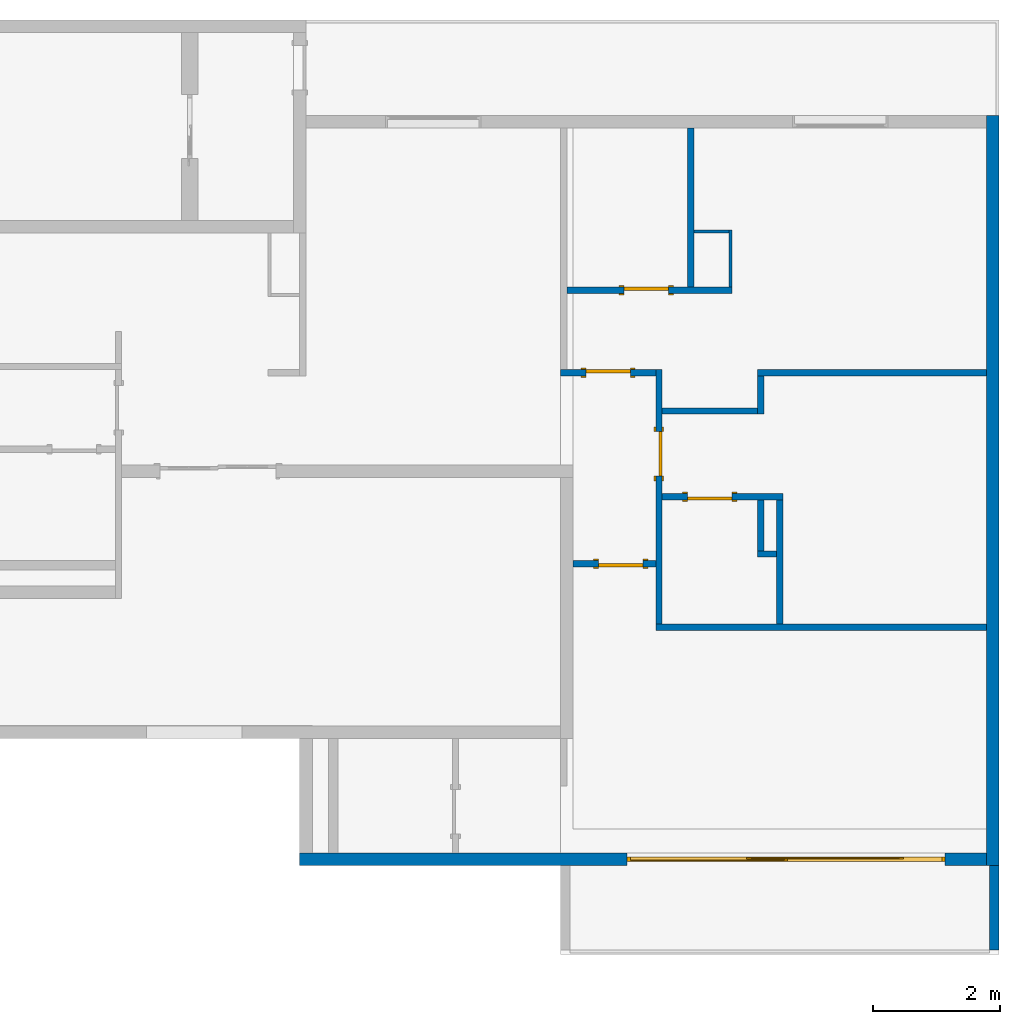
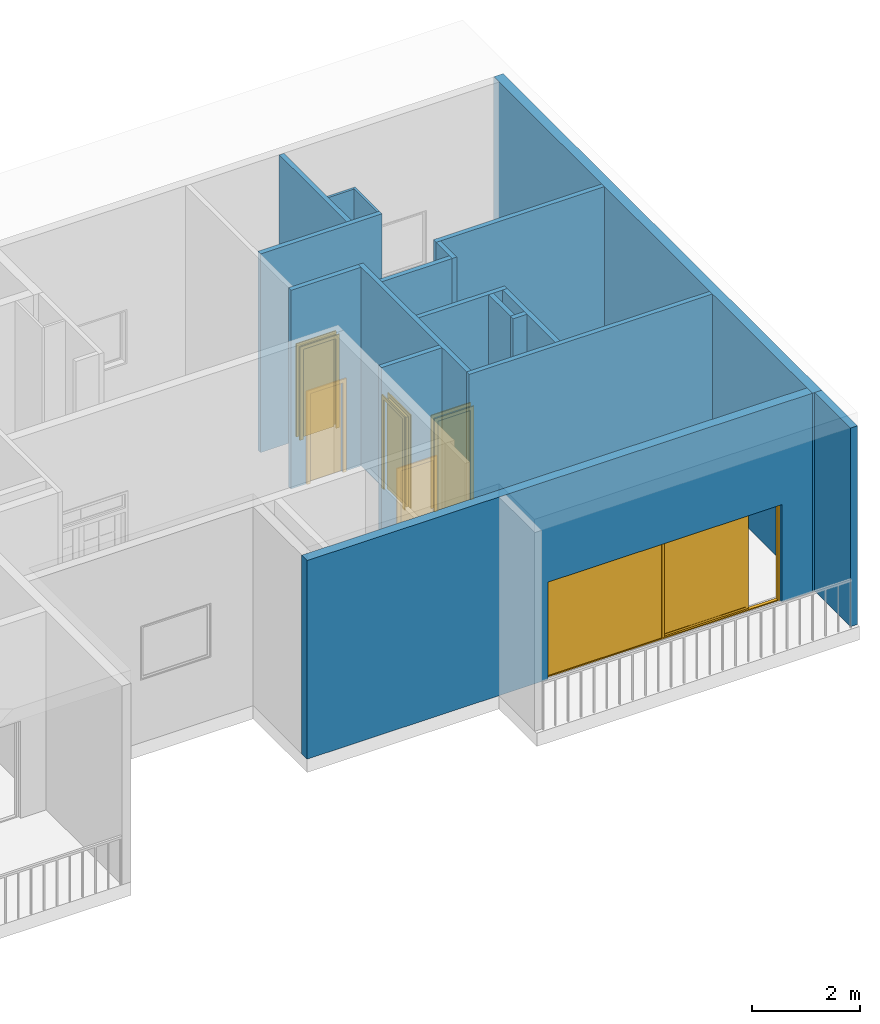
# One storey, part 4 of 7: 18 walls, 6 doors, 6 openings.
"""IFC2X3 building model written with IfcOpenShell, lengths in metres."""

from ifc_helpers import new_model, entity, si_unit, converted_unit, derived_unit, direction, frame, frame_2d, origin, origin_2d_with_axis, place, context, subcontext, project, spatial, polyline, rectangle, outline, extrude, faceted_brep, source, transform, mapped, material, material_list, layer, layer_set, layer_usage, type_object, type_shapes, element, fill, save


model = new_model("IFC2X3")

# Units and contexts
model_context = context("Model", 3, precision=1e-05, world=origin(), true_north=direction((6.123031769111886e-17, 1.0)))
body_context = subcontext(model_context, "Body", "Model", "MODEL_VIEW")
ifc_project = project(units=[si_unit("LENGTHUNIT", "METRE"), si_unit("AREAUNIT", "SQUARE_METRE"), si_unit("VOLUMEUNIT", "CUBIC_METRE"), converted_unit("PLANEANGLEUNIT", "DEGREE", entity("IfcRatioMeasure", 0.017453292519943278), si_unit("PLANEANGLEUNIT", "RADIAN"), dimensions=[0, 0, 0, 0, 0, 0, 0]), si_unit("MASSUNIT", "GRAM", prefix="KILO"), derived_unit("MASSDENSITYUNIT", [(si_unit("MASSUNIT", "GRAM", prefix="KILO"), 1), (si_unit("LENGTHUNIT", "METRE"), -3)]), derived_unit("MOMENTOFINERTIAUNIT", [(si_unit("LENGTHUNIT", "METRE"), 4)]), si_unit("TIMEUNIT", "SECOND"), si_unit("FREQUENCYUNIT", "HERTZ"), si_unit("THERMODYNAMICTEMPERATUREUNIT", "DEGREE_CELSIUS"), derived_unit("THERMALTRANSMITTANCEUNIT", [(si_unit("MASSUNIT", "GRAM", prefix="KILO"), 1), (si_unit("THERMODYNAMICTEMPERATUREUNIT", "KELVIN"), -1), (si_unit("TIMEUNIT", "SECOND"), -3)]), derived_unit("VOLUMETRICFLOWRATEUNIT", [(si_unit("LENGTHUNIT", "METRE"), 3), (si_unit("TIMEUNIT", "SECOND"), -1)]), derived_unit("MASSFLOWRATEUNIT", [(si_unit("MASSUNIT", "GRAM", prefix="KILO"), 1), (si_unit("TIMEUNIT", "SECOND"), -1)]), derived_unit("ROTATIONALFREQUENCYUNIT", [(si_unit("TIMEUNIT", "SECOND"), -1)]), si_unit("ELECTRICCURRENTUNIT", "AMPERE"), si_unit("ELECTRICVOLTAGEUNIT", "VOLT"), si_unit("POWERUNIT", "WATT"), si_unit("FORCEUNIT", "NEWTON", prefix="KILO"), si_unit("ILLUMINANCEUNIT", "LUX"), si_unit("LUMINOUSFLUXUNIT", "LUMEN"), si_unit("LUMINOUSINTENSITYUNIT", "CANDELA"), derived_unit("USERDEFINED", [(si_unit("MASSUNIT", "GRAM", prefix="KILO"), -1), (si_unit("LENGTHUNIT", "METRE"), -2), (si_unit("TIMEUNIT", "SECOND"), 3), (si_unit("LUMINOUSFLUXUNIT", "LUMEN"), 1)]), derived_unit("SOUNDPOWERUNIT", [(si_unit("MASSUNIT", "GRAM", prefix="KILO"), 1), (si_unit("LENGTHUNIT", "METRE"), 2), (si_unit("TIMEUNIT", "SECOND"), -3)]), derived_unit("SOUNDPRESSUREUNIT", [(si_unit("MASSUNIT", "GRAM", prefix="KILO"), 1), (si_unit("LENGTHUNIT", "METRE"), -1), (si_unit("TIMEUNIT", "SECOND"), -2)]), derived_unit("LINEARVELOCITYUNIT", [(si_unit("LENGTHUNIT", "METRE"), 1), (si_unit("TIMEUNIT", "SECOND"), -1)]), si_unit("PRESSUREUNIT", "PASCAL"), derived_unit("USERDEFINED", [(si_unit("LENGTHUNIT", "METRE"), -2), (si_unit("MASSUNIT", "GRAM", prefix="KILO"), 1), (si_unit("TIMEUNIT", "SECOND"), -2)]), derived_unit("LINEARFORCEUNIT", [(si_unit("MASSUNIT", "GRAM", prefix="KILO"), 1), (si_unit("LENGTHUNIT", "METRE"), 1), (si_unit("TIMEUNIT", "SECOND"), -2), (si_unit("LENGTHUNIT", "METRE"), -1)]), derived_unit("PLANARFORCEUNIT", [(si_unit("MASSUNIT", "GRAM", prefix="KILO"), 1), (si_unit("LENGTHUNIT", "METRE"), 1), (si_unit("TIMEUNIT", "SECOND"), -2), (si_unit("LENGTHUNIT", "METRE"), -2)])], contexts=[model_context])

# Site, building, storey
site_placement = place(None, origin())
site = spatial("IfcSite", under=ifc_project, at=site_placement, Name="Default", CompositionType="ELEMENT")
building_placement = place(site_placement, origin())
building = spatial("IfcBuilding", under=site, at=building_placement, CompositionType="ELEMENT")
storey_placement = place(building_placement, frame((0.0, 0.0, 5.639999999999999)))
storey = spatial("IfcBuildingStorey", under=building, at=storey_placement, Name="F1", CompositionType="ELEMENT", Elevation=5.639999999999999)

# Wall
ifc_material_1 = material(Name="Masonry - Concrete Block")
ifc_layer_1 = layer(ifc_material_1, 0.2)
ifc_layer_set_1 = layer_set([ifc_layer_1], Name="Basic Wall:CW 200")
ifc_layer_usage_1 = layer_usage(ifc_layer_set_1, "AXIS2", "NEGATIVE", 0.1)
wall_type_1 = type_object("IfcWallType", Name="Basic Wall:CW 200", PredefinedType="STANDARD", material=ifc_layer_set_1)
wall_1_placement = place(storey_placement, frame((28.807683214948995, -7.2973929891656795, 0.0), z_axis=(0.0, 0.0, 1.0), x_axis=(0.0, 1.0, 0.0)))
element("IfcWallStandardCase", 1, at=wall_1_placement, inside=storey, type_object=wall_type_1, material=ifc_layer_usage_1, Name="Basic Wall:CW 200", ObjectType="Basic Wall:CW 200", context=body_context, shape_type="SweptSolid", body=[
    extrude(rectangle(XDim=11.800000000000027, YDim=0.19999999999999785, at=frame_2d((5.900000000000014, 0.0), x_axis=(-1.0, 0.0))), origin(), (0.0, 0.0, 1.0), 4.490000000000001),
])

# Wall, opening, door
ifc_layer_usage_2 = layer_usage(ifc_layer_set_1, "AXIS2", "NEGATIVE", 0.1)
wall_2_placement = place(storey_placement, frame((28.707683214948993, -7.197392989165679, 0.0), z_axis=(0.0, 0.0, 1.0), x_axis=(-1.0, 0.0, 0.0)))
wall_2 = element("IfcWallStandardCase", 2, at=wall_2_placement, inside=storey, type_object=wall_type_1, material=ifc_layer_usage_2, Name="Basic Wall:CW 200", ObjectType="Basic Wall:CW 200", context=body_context, shape_type="SweptSolid", body=[
    extrude(rectangle(XDim=10.799999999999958, YDim=0.2, at=frame_2d((5.399999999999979, 3.3306690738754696e-16), x_axis=(1.0, 0.0))), origin(), (0.0, 0.0, 1.0), 4.490000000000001),
])
opening_1_placement = place(wall_2_placement, frame((5.6499999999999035, 0.09999999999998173, 0.0)))
opening_1 = element("IfcOpeningElement", 3, at=opening_1_placement, cuts=wall_2, Name="Parametric_Operable_Sliding_Door_6386.0004:5M:1", ObjectType="Opening", context=body_context, shape_type="SweptSolid", body=[
    extrude(rectangle(XDim=2.199999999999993, YDim=4.999999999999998, at=frame_2d((1.0999999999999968, 2.499999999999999), x_axis=(1.0, 0.0))), frame((0.0, 0.0, 0.0), z_axis=(0.0, -1.0, 0.0), x_axis=(0.0, 0.0, 1.0)), (0.0, 0.0, 1.0), 0.2),
])
ifc_material_2 = material(Name="Window Glass")
ifc_material_3 = material(Name="Window Frame")
ifc_material_list_1 = material_list([ifc_material_2, ifc_material_3, ifc_material_2, ifc_material_3])
ifc_material_list_2 = material_list([ifc_material_2, ifc_material_3, ifc_material_2, ifc_material_3])
door_style_1 = type_object("IfcDoorStyle", Name="Parametric_Operable_Sliding_Door_6386.0004:5M", ConstructionType="NOTDEFINED", OperationType="NOTDEFINED", ParameterTakesPrecedence=False, Sizeable=False, material=ifc_material_list_2)
shared_shape_1 = source(origin(), body_context, "Body", "Brep", [
    faceted_brep([(0.7200000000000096, 0.0875000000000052, 2.080000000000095), (0.7200000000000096, 0.0875000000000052, 0.07000000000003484), (0.7200000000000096, 0.0775000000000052, 0.07000000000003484), (0.7200000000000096, 0.0775000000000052, 2.080000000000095), (3.0550000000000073, 0.0875000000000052, 2.080000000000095), (3.0550000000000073, 0.0875000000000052, 0.07000000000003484), (3.0550000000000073, 0.0775000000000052, 0.07000000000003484), (3.0550000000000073, 0.0775000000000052, 2.080000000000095)], [[[0, 1, 2, 3]], [[1, 0, 4, 5]], [[2, 1, 5, 6]], [[3, 2, 6, 7]], [[4, 7, 6, 5]], [[0, 3, 7, 4]]]),
    faceted_brep([(0.7200000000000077, 0.09499999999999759, 0.06999999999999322), (0.7200000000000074, 0.06999999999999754, 0.06999999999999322), (3.055000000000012, 0.06999999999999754, 0.06999999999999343), (3.055000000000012, 0.09499999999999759, 0.0699999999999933), (0.7200000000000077, 0.09499999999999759, 2.080000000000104), (0.7200000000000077, 0.06999999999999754, 2.080000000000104), (3.05500000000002, 0.09499999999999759, 2.080000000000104), (3.125000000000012, 0.09499999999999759, 2.150000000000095), (3.125000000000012, 0.09499999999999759, 0.02500000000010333), (0.6500000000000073, 0.09499999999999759, 0.0250000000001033), (0.6500000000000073, 0.09499999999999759, 2.1499999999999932), (3.055000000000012, 0.06999999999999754, 2.080000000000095), (0.6500000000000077, 0.06999999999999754, 2.1500000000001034), (0.6500000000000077, 0.06999999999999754, 0.02500000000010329), (3.125000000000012, 0.06999999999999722, 0.02500000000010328), (3.125000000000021, 0.06999999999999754, 2.1499999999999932), (0.04999999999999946, 0.06500000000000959, 0.02500000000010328), (4.949999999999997, 0.06499999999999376, 0.025000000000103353), (4.949999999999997, 0.13499999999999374, 0.025000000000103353), (0.05, 0.13500000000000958, 0.02500000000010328), (5.0, 0.0649999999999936, 0.0), (5.0, 0.0649999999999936, 2.199999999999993), (0.0, 0.06500000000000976, 2.199999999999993), (0.0, 0.06500000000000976, 0.0), (0.05, 0.06500000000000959, 2.1499999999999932), (4.949999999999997, 0.06499999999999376, 2.1499999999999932), (0.0, 0.13500000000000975, 0.0), (5.0, 0.1349999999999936, 0.0), (0.0, 0.13500000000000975, 2.199999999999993), (5.0, 0.1349999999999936, 2.199999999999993), (0.05, 0.13500000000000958, 2.1499999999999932), (4.949999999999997, 0.13499999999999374, 2.1499999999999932)], [[[0, 1, 2, 3]], [[1, 0, 4, 5]], [[4, 0, 3, 6], [7, 8, 9, 10]], [[1, 5, 11, 2], [12, 13, 14, 15]], [[13, 12, 10, 9]], [[13, 9, 8, 14], [16, 17, 18, 19]], [[11, 6, 3, 2]], [[15, 14, 8, 7]], [[20, 21, 22, 23], [24, 25, 17, 16]], [[20, 23, 26, 27]], [[23, 22, 28, 26]], [[27, 26, 28, 29], [30, 19, 18, 31]], [[21, 20, 27, 29]], [[17, 25, 31, 18]], [[24, 16, 19, 30]], [[5, 4, 6, 11]], [[22, 21, 29, 28]], [[10, 12, 15, 7], [25, 24, 30, 31]]], outer=[[True], [True], [False, True], [False, True], [True], [False, True], [True], [True], [True, False], [True], [True], [True, False], [True], [True], [True], [True], [True], [False, True]]),
    faceted_brep([(2.5249999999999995, 0.11499999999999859, 2.1499999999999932), (2.5249999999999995, 0.11499999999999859, 0.02500000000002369), (4.949999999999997, 0.11499999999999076, 0.02500000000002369), (4.949999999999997, 0.11499999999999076, 2.1499999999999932), (2.5249999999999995, 0.12099999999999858, 2.1499999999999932), (2.5249999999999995, 0.12099999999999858, 0.02500000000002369), (4.949999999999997, 0.12099999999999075, 0.02500000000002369), (4.949999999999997, 0.12099999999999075, 2.1499999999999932)], [[[0, 1, 2, 3]], [[1, 0, 4, 5]], [[2, 1, 5, 6]], [[3, 2, 6, 7]], [[4, 7, 6, 5]], [[0, 3, 7, 4]]]),
    faceted_brep([(2.474999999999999, 0.09999999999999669, 2.1499999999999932), (2.474999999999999, 0.09999999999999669, 0.025000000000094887), (2.5249999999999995, 0.09999999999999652, 0.02500000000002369), (2.5249999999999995, 0.09999999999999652, 2.1499999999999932), (2.474999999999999, 0.1300000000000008, 2.1499999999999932), (2.474999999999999, 0.1300000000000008, 0.025000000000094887), (2.5249999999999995, 0.13000000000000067, 0.02500000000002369), (2.5249999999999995, 0.13000000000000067, 2.1499999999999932)], [[[0, 1, 2, 3]], [[1, 0, 4, 5]], [[2, 1, 5, 6]], [[3, 2, 6, 7]], [[4, 7, 6, 5]], [[0, 3, 7, 4]]]),
])
type_shapes(door_style_1, [shared_shape_1])
door_1_placement = place(opening_1_placement, frame((-5.0, -0.1999999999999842, 0.0)))
door_1 = element("IfcDoor", 4, at=door_1_placement, inside=storey, type_object=door_style_1, material=ifc_material_list_1, Name="Parametric_Operable_Sliding_Door_6386.0004:5M", ObjectType="Parametric_Operable_Sliding_Door_6386.0004:5M", OverallHeight=2.1999999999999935, OverallWidth=4.999999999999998, context=body_context, shape_type="MappedRepresentation", body=[
    mapped(shared_shape_1, transform((0.0, 0.0, 0.0), scale=1.0)),
])
fill(opening_1, door_1)

# Wall
ifc_layer_2 = layer(ifc_material_1, 0.1)
ifc_layer_set_2 = layer_set([ifc_layer_2], Name="Basic Wall:CW 100")
ifc_layer_usage_3 = layer_usage(ifc_layer_set_2, "AXIS2", "NEGATIVE", 0.05)
wall_type_2 = type_object("IfcWallType", Name="Basic Wall:CW 100", PredefinedType="STANDARD", material=ifc_layer_set_2)
wall_3_placement = place(storey_placement, frame((28.707683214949, -3.5473929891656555, 0.0), z_axis=(0.0, 0.0, 1.0), x_axis=(-1.0, 0.0, 0.0)))
element("IfcWallStandardCase", 5, at=wall_3_placement, inside=storey, type_object=wall_type_2, material=ifc_layer_usage_3, Name="Basic Wall:CW 100", ObjectType="Basic Wall:CW 100", context=body_context, shape_type="SweptSolid", body=[
    extrude(rectangle(XDim=5.199999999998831, YDim=0.1, at=frame_2d((2.5999999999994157, -1.1102230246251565e-16), x_axis=(-1.0, 0.0))), origin(), (0.0, 0.0, 1.0), 4.490000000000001),
])

# Wall, opening, door
ifc_layer_usage_4 = layer_usage(ifc_layer_set_2, "AXIS2", "NEGATIVE", 0.05)
wall_4_placement = place(storey_placement, frame((23.55768321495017, -3.4973929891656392, 0.0), z_axis=(0.0, 0.0, 1.0), x_axis=(0.0, 1.0, 0.0)))
wall_4 = element("IfcWallStandardCase", 6, at=wall_4_placement, inside=storey, type_object=wall_type_2, material=ifc_layer_usage_4, Name="Basic Wall:CW 100", ObjectType="Basic Wall:CW 100", context=body_context, shape_type="SweptSolid", body=[
    extrude(rectangle(XDim=3.9999999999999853, YDim=0.09999999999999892, at=frame_2d((1.999999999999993, 2.1649348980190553e-15), x_axis=(1.0, 0.0))), origin(), (0.0, 0.0, 1.0), 4.490000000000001),
])
opening_2_placement = place(wall_4_placement, frame((3.0250000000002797, 0.04999999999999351, 0.0)))
opening_2 = element("IfcOpeningElement", 7, at=opening_2_placement, cuts=wall_4, Name="M_Single-Flush:0762 x 2032mm:1", ObjectType="Opening", context=body_context, shape_type="SweptSolid", body=[
    extrude(rectangle(XDim=0.6999999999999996, YDim=2.0319999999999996, at=frame_2d((1.0159999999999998, 0.3499999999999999), x_axis=(0.0, 1.0))), frame((0.0, 0.0, 0.0), z_axis=(0.0, -1.0, 0.0), x_axis=(0.0, 0.0, 1.0)), (0.0, 0.0, 1.0), 0.1),
])
ifc_material_4 = material(Name="Door - Frame")
ifc_material_5 = material(Name="Door - Panel")
ifc_material_list_3 = material_list([ifc_material_4, ifc_material_5])
ifc_material_list_4 = material_list([ifc_material_4, ifc_material_4, ifc_material_5])
door_style_2 = type_object("IfcDoorStyle", Name="M_Single-Flush:0762 x 2032mm", ConstructionType="NOTDEFINED", OperationType="NOTDEFINED", ParameterTakesPrecedence=False, Sizeable=False, material=ifc_material_list_4)
shared_shape_2 = source(origin(), body_context, "Body", "SweptSolid", [
    extrude(outline(polyline([(-0.426, -1.0729999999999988), (0.4259999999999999, -1.0729999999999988), (0.4259999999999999, 1.0350000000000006), (0.3499999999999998, 1.0350000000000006), (0.3499999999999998, -0.9970000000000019), (-0.3499999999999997, -0.9970000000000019), (-0.3499999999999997, 1.0350000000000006), (-0.426, 1.0350000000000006), (-0.426, -1.0729999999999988)])), frame((0.3500000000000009, 0.10000000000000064, 1.0350000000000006), z_axis=(0.0, 1.0, 0.0), x_axis=(1.0, 0.0, 0.0)), (0.0, 0.0, 1.0), 0.024999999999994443),
    extrude(outline(polyline([(-1.0729999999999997, -0.42599999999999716), (1.0349999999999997, -0.42599999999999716), (1.0349999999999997, -0.3500000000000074), (-0.9969999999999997, -0.3500000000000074), (-0.9969999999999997, 0.35000000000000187), (1.0349999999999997, 0.35000000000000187), (1.0349999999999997, 0.4260000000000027), (-1.0729999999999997, 0.4260000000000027), (-1.0729999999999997, -0.42599999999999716)])), frame((0.35000000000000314, -0.025000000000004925, 1.0349999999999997), z_axis=(0.0, 1.0, 0.0), x_axis=(0.0, 0.0, -1.0)), (0.0, 0.0, 1.0), 0.025000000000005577),
    extrude(rectangle(XDim=0.051000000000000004, YDim=0.6999999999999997, at=origin_2d_with_axis()), frame((0.3500000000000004, 0.07450000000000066, 0.0), z_axis=(0.0, 0.0, 1.0), x_axis=(0.0, 1.0, 0.0)), (0.0, 0.0, 1.0), 2.0319999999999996),
])
type_shapes(door_style_2, [shared_shape_2])
door_2_placement = place(opening_2_placement, frame((0.0, 0.0, 0.0), z_axis=(0.0, 0.0, 1.0), x_axis=(-1.0, 0.0, 0.0)))
door_2 = element("IfcDoor", 8, at=door_2_placement, inside=storey, type_object=door_style_2, material=ifc_material_list_3, Name="M_Single-Flush:0762 x 2032mm", ObjectType="M_Single-Flush:0762 x 2032mm", OverallHeight=2.0319999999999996, OverallWidth=0.7000000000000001, context=body_context, shape_type="MappedRepresentation", body=[
    mapped(shared_shape_2, transform((0.0, 0.0, 0.0), scale=1.0)),
])
fill(opening_2, door_2)

ifc_layer_usage_5 = layer_usage(ifc_layer_set_2, "AXIS2", "NEGATIVE", 0.05)
wall_5_placement = place(storey_placement, frame((23.507683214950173, 0.45260701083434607, 0.0), z_axis=(0.0, 0.0, 1.0), x_axis=(-1.0, 0.0, 0.0)))
wall_5 = element("IfcWallStandardCase", 9, at=wall_5_placement, inside=storey, type_object=wall_type_2, material=ifc_layer_usage_5, Name="Basic Wall:CW 100", ObjectType="Basic Wall:CW 100", context=body_context, shape_type="SweptSolid", body=[
    extrude(rectangle(XDim=1.5000000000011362, YDim=0.09999999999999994, at=frame_2d((0.750000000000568, 6.938893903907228e-17), x_axis=(1.0, 0.0))), origin(), (0.0, 0.0, 1.0), 4.490000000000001),
])
opening_3_placement = place(wall_5_placement, frame((1.100000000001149, 0.049999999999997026, 0.0)))
opening_3 = element("IfcOpeningElement", 10, at=opening_3_placement, cuts=wall_5, Name="M_Single-Flush:0762 x 2032mm:1", ObjectType="Opening", context=body_context, shape_type="SweptSolid", body=[
    extrude(rectangle(XDim=0.6999999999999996, YDim=2.0319999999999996, at=frame_2d((1.0159999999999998, 0.3499999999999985), x_axis=(0.0, 1.0))), frame((0.0, 0.0, 0.0), z_axis=(0.0, -1.0, 0.0), x_axis=(0.0, 0.0, 1.0)), (0.0, 0.0, 1.0), 0.1),
])
ifc_material_list_5 = material_list([ifc_material_4, ifc_material_4, ifc_material_5])
door_3_placement = place(opening_3_placement, frame((0.0, 0.0, 0.0), z_axis=(0.0, 0.0, 1.0), x_axis=(-1.0, 0.0, 0.0)))
door_3 = element("IfcDoor", 11, at=door_3_placement, inside=storey, type_object=door_style_2, material=ifc_material_list_5, Name="M_Single-Flush:0762 x 2032mm", ObjectType="M_Single-Flush:0762 x 2032mm", OverallHeight=2.0319999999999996, OverallWidth=0.7000000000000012, context=body_context, shape_type="MappedRepresentation", body=[
    mapped(shared_shape_2, transform((0.0, 0.0, 0.0), scale=1.0)),
])
fill(opening_3, door_3)

ifc_layer_usage_6 = layer_usage(ifc_layer_set_2, "AXIS2", "NEGATIVE", 0.05)
wall_6_placement = place(storey_placement, frame((22.10768321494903, 1.7526070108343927, 0.0)))
wall_6 = element("IfcWallStandardCase", 12, at=wall_6_placement, inside=storey, type_object=wall_type_2, material=ifc_layer_usage_6, Name="Basic Wall:CW 100", ObjectType="Basic Wall:CW 100", context=body_context, shape_type="SweptSolid", body=[
    extrude(rectangle(XDim=2.6000000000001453, YDim=0.1, at=frame_2d((1.300000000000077, 7.632783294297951e-17), x_axis=(1.0, 0.0))), origin(), (0.0, 0.0, 1.0), 4.490000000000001),
])
opening_4_placement = place(wall_6_placement, frame((0.8999999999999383, -0.05000000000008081, 0.0)))
opening_4 = element("IfcOpeningElement", 13, at=opening_4_placement, cuts=wall_6, Name="M_Single-Flush:0762 x 2032mm:1", ObjectType="Opening", context=body_context, shape_type="SweptSolid", body=[
    extrude(rectangle(XDim=0.6999999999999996, YDim=2.0319999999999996, at=frame_2d((1.0159999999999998, 0.3499999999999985), x_axis=(0.0, 1.0))), frame((0.0, 0.0, 0.0), z_axis=(0.0, 1.0, 0.0), x_axis=(0.0, 0.0, 1.0)), (0.0, 0.0, 1.0), 0.1),
])
ifc_material_list_6 = material_list([ifc_material_4, ifc_material_5])
door_4_placement = place(opening_4_placement, origin())
door_4 = element("IfcDoor", 14, at=door_4_placement, inside=storey, type_object=door_style_2, material=ifc_material_list_6, Name="M_Single-Flush:0762 x 2032mm", ObjectType="M_Single-Flush:0762 x 2032mm", OverallHeight=2.0319999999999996, OverallWidth=0.7000000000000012, context=body_context, shape_type="MappedRepresentation", body=[
    mapped(shared_shape_2, transform((0.0, 0.0, 0.0), scale=1.0)),
])
fill(opening_4, door_4)

# Wall
ifc_layer_usage_7 = layer_usage(ifc_layer_set_2, "AXIS2", "NEGATIVE", 0.05)
wall_7_placement = place(storey_placement, frame((24.057683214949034, 1.8026070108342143, 0.0), z_axis=(0.0, 0.0, 1.0), x_axis=(0.0, 1.0, 0.0)))
element("IfcWallStandardCase", 15, at=wall_7_placement, inside=storey, type_object=wall_type_2, material=ifc_layer_usage_7, Name="Basic Wall:CW 100", ObjectType="Basic Wall:CW 100", context=body_context, shape_type="SweptSolid", body=[
    extrude(rectangle(XDim=2.5000000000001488, YDim=0.10000000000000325, at=frame_2d((1.2500000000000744, -8.326672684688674e-17), x_axis=(-1.0, 0.0))), origin(), (0.0, 0.0, 1.0), 4.490000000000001),
])

# Wall, opening, door
ifc_layer_usage_8 = layer_usage(ifc_layer_set_2, "AXIS2", "NEGATIVE", 0.05)
wall_8_placement = place(storey_placement, frame((23.507683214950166, -2.547392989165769, 0.0), z_axis=(0.0, 0.0, 1.0), x_axis=(-1.0, 0.0, 0.0)))
wall_8 = element("IfcWallStandardCase", 16, at=wall_8_placement, inside=storey, type_object=wall_type_2, material=ifc_layer_usage_8, Name="Basic Wall:CW 100", ObjectType="Basic Wall:CW 100", context=body_context, shape_type="SweptSolid", body=[
    extrude(rectangle(XDim=1.3000000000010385, YDim=0.1, at=frame_2d((0.6500000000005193, 0.0), x_axis=(1.0, 0.0))), origin(), (0.0, 0.0, 1.0), 4.490000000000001),
])
opening_5_placement = place(wall_8_placement, frame((0.1999999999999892, -0.05000000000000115, 0.0)))
opening_5 = element("IfcOpeningElement", 17, at=opening_5_placement, cuts=wall_8, Name="M_Single-Flush:0762 x 2032mm:1", ObjectType="Opening", context=body_context, shape_type="SweptSolid", body=[
    extrude(rectangle(XDim=0.6999999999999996, YDim=2.0319999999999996, at=frame_2d((1.0159999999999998, 0.3499999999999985), x_axis=(0.0, 1.0))), frame((0.0, 0.0, 0.0), z_axis=(0.0, 1.0, 0.0), x_axis=(0.0, 0.0, 1.0)), (0.0, 0.0, 1.0), 0.1),
])
ifc_material_list_7 = material_list([ifc_material_4, ifc_material_5])
door_5_placement = place(opening_5_placement, origin())
door_5 = element("IfcDoor", 18, at=door_5_placement, inside=storey, type_object=door_style_2, material=ifc_material_list_7, Name="M_Single-Flush:0762 x 2032mm", ObjectType="M_Single-Flush:0762 x 2032mm", OverallHeight=2.0319999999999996, OverallWidth=0.7000000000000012, context=body_context, shape_type="MappedRepresentation", body=[
    mapped(shared_shape_2, transform((0.0, 0.0, 0.0), scale=1.0)),
])
fill(opening_5, door_5)

ifc_layer_usage_9 = layer_usage(ifc_layer_set_2, "AXIS2", "NEGATIVE", 0.05)
wall_9_placement = place(storey_placement, frame((23.607683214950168, -1.4973929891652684, 0.0)))
wall_9 = element("IfcWallStandardCase", 19, at=wall_9_placement, inside=storey, type_object=wall_type_2, material=ifc_layer_usage_9, Name="Basic Wall:CW 100", ObjectType="Basic Wall:CW 100", context=body_context, shape_type="SweptSolid", body=[
    extrude(rectangle(XDim=1.8999999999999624, YDim=0.1, at=frame_2d((0.9499999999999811, -1.1449174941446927e-16), x_axis=(1.0, 0.0))), origin(), (0.0, 0.0, 1.0), 4.490000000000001),
])
opening_6_placement = place(wall_9_placement, frame((1.0999999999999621, 0.049999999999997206, 0.0)))
opening_6 = element("IfcOpeningElement", 20, at=opening_6_placement, cuts=wall_9, Name="M_Single-Flush:0762 x 2032mm:1", ObjectType="Opening", context=body_context, shape_type="SweptSolid", body=[
    extrude(rectangle(XDim=0.6999999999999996, YDim=2.0319999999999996, at=frame_2d((1.0159999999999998, 0.3499999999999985), x_axis=(0.0, 1.0))), frame((0.0, 0.0, 0.0), z_axis=(0.0, -1.0, 0.0), x_axis=(0.0, 0.0, 1.0)), (0.0, 0.0, 1.0), 0.1),
])
ifc_material_list_8 = material_list([ifc_material_4, ifc_material_5])
door_6_placement = place(opening_6_placement, frame((0.0, 0.0, 0.0), z_axis=(0.0, 0.0, 1.0), x_axis=(-1.0, 0.0, 0.0)))
door_6 = element("IfcDoor", 21, at=door_6_placement, inside=storey, type_object=door_style_2, material=ifc_material_list_8, Name="M_Single-Flush:0762 x 2032mm", ObjectType="M_Single-Flush:0762 x 2032mm", OverallHeight=2.0319999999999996, OverallWidth=0.7000000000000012, context=body_context, shape_type="MappedRepresentation", body=[
    mapped(shared_shape_2, transform((0.0, 0.0, 0.0), scale=1.0)),
])
fill(opening_6, door_6)

# Walls
ifc_layer_usage_10 = layer_usage(ifc_layer_set_2, "AXIS2", "NEGATIVE", 0.05)
wall_10_placement = place(storey_placement, frame((25.457683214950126, -1.547392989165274, 0.0), z_axis=(0.0, 0.0, 1.0), x_axis=(0.0, -1.0, 0.0)))
element("IfcWallStandardCase", 22, at=wall_10_placement, inside=storey, type_object=wall_type_2, material=ifc_layer_usage_10, Name="Basic Wall:CW 100", ObjectType="Basic Wall:CW 100", context=body_context, shape_type="SweptSolid", body=[
    extrude(rectangle(XDim=1.9500000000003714, YDim=0.10000000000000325, at=frame_2d((0.9750000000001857, 0.0), x_axis=(-1.0, 0.0))), origin(), (0.0, 0.0, 1.0), 4.490000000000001),
])
ifc_layer_usage_11 = layer_usage(ifc_layer_set_2, "AXIS2", "NEGATIVE", 0.05)
wall_11_placement = place(storey_placement, frame((25.40768321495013, -2.3973929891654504, 0.0), z_axis=(0.0, 0.0, 1.0), x_axis=(-1.0, 0.0, 0.0)))
element("IfcWallStandardCase", 23, at=wall_11_placement, inside=storey, type_object=wall_type_2, material=ifc_layer_usage_11, Name="Basic Wall:CW 100", ObjectType="Basic Wall:CW 100", context=body_context, shape_type="SweptSolid", body=[
    extrude(rectangle(XDim=0.3000000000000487, YDim=0.10000000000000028, at=frame_2d((0.15000000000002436, 1.3530843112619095e-16), x_axis=(-1.0, 0.0))), origin(), (0.0, 0.0, 1.0), 4.490000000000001),
])
ifc_layer_usage_12 = layer_usage(ifc_layer_set_2, "AXIS2", "NEGATIVE", 0.05)
wall_12_placement = place(storey_placement, frame((25.157683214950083, -2.3473929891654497, 0.0), z_axis=(0.0, 0.0, 1.0), x_axis=(0.0, 1.0, 0.0)))
element("IfcWallStandardCase", 24, at=wall_12_placement, inside=storey, type_object=wall_type_2, material=ifc_layer_usage_12, Name="Basic Wall:CW 100", ObjectType="Basic Wall:CW 100", context=body_context, shape_type="SweptSolid", body=[
    extrude(rectangle(XDim=0.8000000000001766, YDim=0.10000000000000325, at=frame_2d((0.4000000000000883, 0.0), x_axis=(-1.0, 0.0))), origin(), (0.0, 0.0, 1.0), 4.490000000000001),
])
ifc_layer_usage_13 = layer_usage(ifc_layer_set_2, "AXIS2", "NEGATIVE", 0.05)
wall_13_placement = place(storey_placement, frame((28.707683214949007, 0.45260701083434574, 0.0), z_axis=(0.0, 0.0, 1.0), x_axis=(-1.0, 0.0, 0.0)))
element("IfcWallStandardCase", 25, at=wall_13_placement, inside=storey, type_object=wall_type_2, material=ifc_layer_usage_13, Name="Basic Wall:CW 100", ObjectType="Basic Wall:CW 100", context=body_context, shape_type="SweptSolid", body=[
    extrude(rectangle(XDim=3.5999999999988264, YDim=0.1, at=frame_2d((1.7999999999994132, 0.0), x_axis=(-1.0, 0.0))), origin(), (0.0, 0.0, 1.0), 4.490000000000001),
])
ifc_layer_usage_14 = layer_usage(ifc_layer_set_2, "AXIS2", "NEGATIVE", 0.05)
wall_14_placement = place(storey_placement, frame((25.15768321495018, 0.4026070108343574, 0.0), z_axis=(0.0, 0.0, 1.0), x_axis=(0.0, -1.0, 0.0)))
element("IfcWallStandardCase", 26, at=wall_14_placement, inside=storey, type_object=wall_type_2, material=ifc_layer_usage_14, Name="Basic Wall:CW 100", ObjectType="Basic Wall:CW 100", context=body_context, shape_type="SweptSolid", body=[
    extrude(rectangle(XDim=0.5999999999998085, YDim=0.10000000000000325, at=frame_2d((0.29999999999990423, 0.0), x_axis=(-1.0, 0.0))), origin(), (0.0, 0.0, 1.0), 4.490000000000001),
])
ifc_layer_usage_15 = layer_usage(ifc_layer_set_2, "AXIS2", "NEGATIVE", 0.05)
wall_15_placement = place(storey_placement, frame((25.107683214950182, -0.14739298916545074, 0.0), z_axis=(0.0, 0.0, 1.0), x_axis=(-1.0, 0.0, 0.0)))
element("IfcWallStandardCase", 27, at=wall_15_placement, inside=storey, type_object=wall_type_2, material=ifc_layer_usage_15, Name="Basic Wall:CW 100", ObjectType="Basic Wall:CW 100", context=body_context, shape_type="SweptSolid", body=[
    extrude(rectangle(XDim=1.5000000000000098, YDim=0.1, at=frame_2d((0.7500000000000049, 3.469446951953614e-18), x_axis=(-1.0, 0.0))), origin(), (0.0, 0.0, 1.0), 4.490000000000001),
])
ifc_layer_3 = layer(ifc_material_1, 0.14999999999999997)
ifc_layer_set_3 = layer_set([ifc_layer_3], Name="Basic Wall:CW 150")
ifc_layer_usage_16 = layer_usage(ifc_layer_set_3, "AXIS2", "NEGATIVE", 0.07499999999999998)
wall_type_3 = type_object("IfcWallType", Name="Basic Wall:CW 150", PredefinedType="STANDARD", material=ifc_layer_set_3)
wall_16_placement = place(storey_placement, frame((28.832683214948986, -8.622392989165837, 0.0), z_axis=(0.0, 0.0, 1.0), x_axis=(0.0, 1.0, 0.0)))
element("IfcWallStandardCase", 28, at=wall_16_placement, inside=storey, type_object=wall_type_3, material=ifc_layer_usage_16, Name="Basic Wall:CW 150", ObjectType="Basic Wall:CW 150", context=body_context, shape_type="SweptSolid", body=[
    extrude(rectangle(XDim=1.325000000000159, YDim=0.15000000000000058, at=frame_2d((0.6625000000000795, -1.1102230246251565e-16), x_axis=(-1.0, 0.0))), origin(), (0.0, 0.0, 1.0), 4.490000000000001),
])
ifc_layer_4 = layer(ifc_material_1, 0.05)
ifc_layer_set_4 = layer_set([ifc_layer_4], Name="Basic Wall:CW 50")
ifc_layer_usage_17 = layer_usage(ifc_layer_set_4, "AXIS2", "NEGATIVE", 0.025)
wall_type_4 = type_object("IfcWallType", Name="Basic Wall:CW 50", PredefinedType="STANDARD", material=ifc_layer_set_4)
wall_17_placement = place(storey_placement, frame((24.682683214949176, 1.802607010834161, 0.0), z_axis=(0.0, 0.0, 1.0), x_axis=(0.0, 1.0, 0.0)))
element("IfcWallStandardCase", 29, at=wall_17_placement, inside=storey, type_object=wall_type_4, material=ifc_layer_usage_17, Name="Basic Wall:CW 50", ObjectType="Basic Wall:CW 50", context=body_context, shape_type="SweptSolid", body=[
    extrude(rectangle(XDim=0.9000000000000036, YDim=0.0499999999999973, at=frame_2d((0.4500000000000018, 0.0), x_axis=(-1.0, 0.0))), origin(), (0.0, 0.0, 1.0), 4.490000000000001),
])
ifc_layer_usage_18 = layer_usage(ifc_layer_set_4, "AXIS2", "NEGATIVE", 0.025)
wall_18_placement = place(storey_placement, frame((24.657683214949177, 2.6776070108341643, 0.0), z_axis=(0.0, 0.0, 1.0), x_axis=(-1.0, 0.0, 0.0)))
element("IfcWallStandardCase", 30, at=wall_18_placement, inside=storey, type_object=wall_type_4, material=ifc_layer_usage_18, Name="Basic Wall:CW 50", ObjectType="Basic Wall:CW 50", context=body_context, shape_type="SweptSolid", body=[
    extrude(rectangle(XDim=0.5500000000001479, YDim=0.04999999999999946, at=frame_2d((0.27500000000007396, -9.020562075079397e-17), x_axis=(-1.0, 0.0))), origin(), (0.0, 0.0, 1.0), 4.490000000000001),
])

save(model, "model.ifc")
